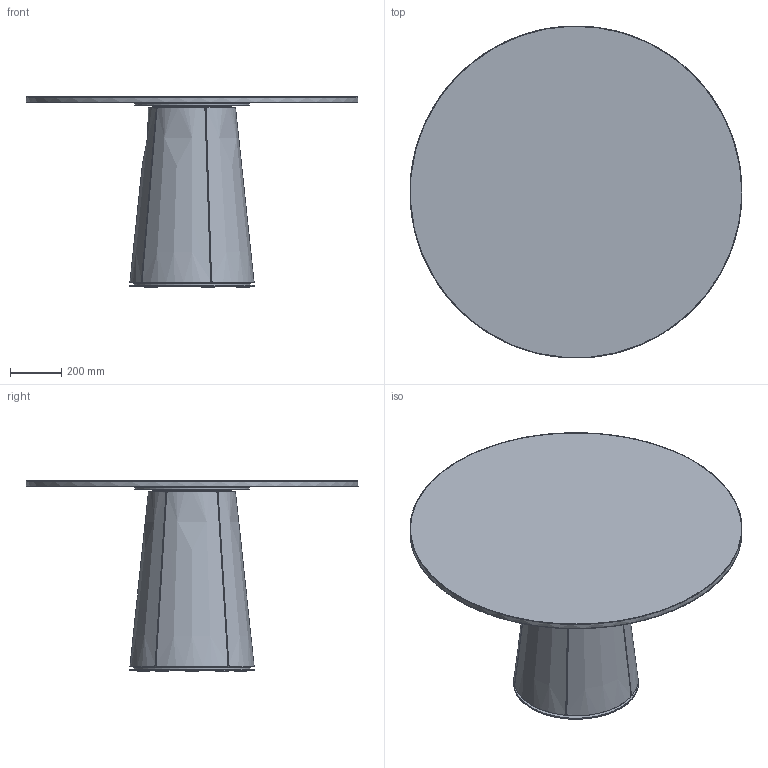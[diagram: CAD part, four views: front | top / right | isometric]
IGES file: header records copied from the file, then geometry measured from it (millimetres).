
Global section: file name: /Volumes/Team/Clients/Pulpo/2019 Bent Glass Table/_data export/20190222_BENT_dining table_130.igs; preprocessor: Trout Lake IGES 012 Jan 28 2019; date: 190222.101021; units: millimetre
Bounding box: 1299.71 x 1299.79 x 744 mm (x, y, z)
Surface area: 6513159.9 mm2 (no closed solid volume)
Topology: 0 solids, 0 shells, 188 faces, 2334 edges, 2304 vertices
Faces by surface type: bspline 188
